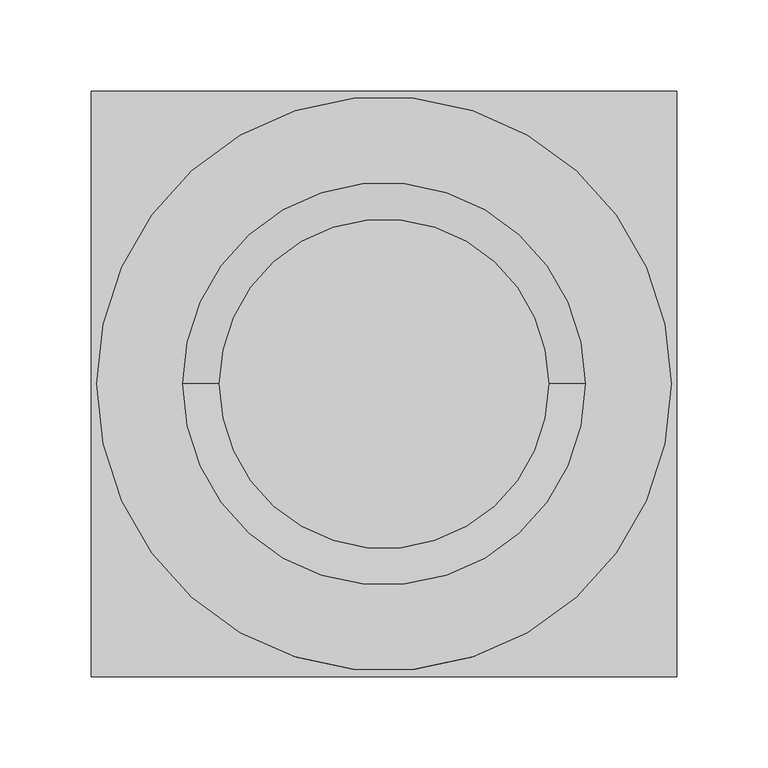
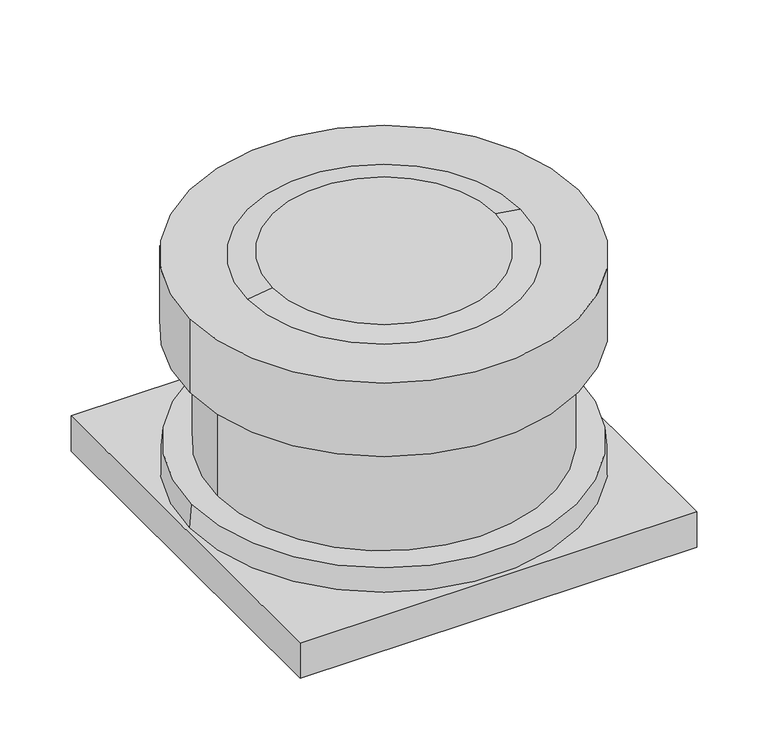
"""IFC4 building model written with IfcOpenShell, lengths in millimetres: unitary equipment geometry, VE-Wentylator-ParaForma-Harmann-MONSTER_EC-Zestaw_z_Podstawą-Wywiewny : 190/800EC."""

from ifc_helpers import new_model, si_unit, point, frame, frame_2d, origin, origin_2d, place, context, project, spatial, polyline, circle_curve, trimmed, segment, composite_curve, outline, extrude, faceted_brep, source, transform, mapped, element, save
from ifc_brep_helpers import plane_surface, cylinder_surface, revolved_surface, advanced_brep


def unitary_equipment_4672604a(model_context):
    return source(origin(), model_context, "Body", "SolidModel", [
        faceted_brep([(156.0, 156.0, 294.0), (156.0, 156.0, 320.0), (-156.0, 156.0, 320.0), (-156.0, 156.0, 294.0), (160.0, 160.0, 324.0), (160.0, 160.0, 294.0), (-160.0, 160.0, 294.0), (-160.0, 160.0, 324.0), (-156.0, -156.0, 320.0), (-156.0, -156.0, 294.0), (-160.0, -160.0, 294.0), (-160.0, -160.0, 324.0), (156.0, -156.0, 320.0), (156.0, -156.0, 294.0), (160.0, -160.0, 294.0), (160.0, -160.0, 324.0)], [[[0, 1, 2, 3]], [[4, 5, 6, 7]], [[3, 2, 8, 9]], [[7, 6, 10, 11]], [[9, 8, 12, 13]], [[11, 10, 14, 15]], [[7, 11, 15, 4]], [[1, 12, 8, 2]], [[13, 12, 1, 0]], [[5, 14, 10, 6], [3, 9, 13, 0]], [[15, 14, 5, 4]]]),
        advanced_brep(
        [(-157.0, 0.0, 440.0), (157.0, 0.0, 440.0), (-157.0, 0.0, 503.0), (157.0, 0.0, 503.0), (110.0, 0.0, 503.0), (-110.0, 0.0, 503.0), (-90.0, 0.0, 506.0), (90.0, 0.0, 506.0)],
        [
            (0, 1, circle_curve(frame((0.0, 0.0, 440.0), z_axis=(0.0, 0.0, -1.0), x_axis=(1.0, 0.0, 0.0)), 157.0)),
            (1, 0, circle_curve(frame((0.0, 0.0, 440.0), z_axis=(0.0, 0.0, -1.0), x_axis=(1.0, 0.0, 0.0)), 157.0)),
            (2, 3, circle_curve(frame((0.0, 0.0, 503.0), z_axis=(0.0, 0.0, 1.0), x_axis=(1.0, 0.0, 0.0)), 157.0)),
            (3, 2, circle_curve(frame((0.0, 0.0, 503.0), z_axis=(0.0, 0.0, 1.0), x_axis=(1.0, 0.0, 0.0)), 157.0)),
            (4, 5, circle_curve(frame((0.0, 0.0, 503.0), z_axis=(0.0, 0.0, -1.0), x_axis=(-1.0, 0.0, 0.0)), 110.0)),
            (5, 4, circle_curve(frame((0.0, 0.0, 503.0), z_axis=(0.0, 0.0, -1.0), x_axis=(1.0, 0.0, 0.0)), 110.0)),
            (0, 2),
            (3, 1),
            (6, 7, circle_curve(frame((0.0, 0.0, 506.0), z_axis=(0.0, 0.0, 1.0), x_axis=(-1.0, 0.0, 0.0)), 90.0)),
            (7, 6, circle_curve(frame((0.0, 0.0, 506.0), z_axis=(0.0, 0.0, 1.0), x_axis=(1.0, 0.0, 0.0)), 90.0)),
            (6, 5),
            (4, 7),
        ],
        [
            plane_surface(frame((0.0, 0.0, 440.0), z_axis=(0.0, 0.0, -1.0), x_axis=(0.0, 1.0, 0.0))),
            plane_surface(frame((0.0, 0.0, 503.0), z_axis=(0.0, 0.0, 1.0), x_axis=(0.0, 1.0, 0.0))),
            cylinder_surface(frame((0.0, 0.0, 440.0), z_axis=(0.0, 0.0, -1.0), x_axis=(1.0, 0.0, 0.0)), 157.0),
            plane_surface(frame((0.0, 0.0, 506.0), z_axis=(0.0, 0.0, 1.0), x_axis=(0.0, -1.0, 0.0))),
            revolved_surface(polyline([(-90.0, 0.0, 506.0), (-110.0, 0.0, 503.0)]), (0.0, 0.0, 519.5), (0.0, 0.0, -1.0)),
            revolved_surface(polyline([(90.0, 0.0, 506.0), (110.0, 0.0, 503.0)]), (0.0, 0.0, 519.5), (0.0, 0.0, -1.0)),
        ],
        [
            (0, [[1, 2]]),
            (1, [[3, 4], [5, 6]]),
            (2, [[-1, 7, -4, 8]]),
            (2, [[-2, -8, -3, -7]]),
            (3, [[9, 10]]),
            (4, [[-9, 11, -5, 12]]),
            (5, [[-10, -12, -6, -11]]),
        ],
    ),
        extrude(outline(composite_curve([segment(trimmed(circle_curve(frame_2d((142.5, 10.9)), 8.0), [point((134.5, 10.9))], [point((150.5, 10.9))], False, "CARTESIAN"), True, "CONTINUOUS"), segment(trimmed(circle_curve(frame_2d((142.5, 10.9)), 8.0), [point((150.5, 10.9))], [point((134.5, 10.9))], False, "CARTESIAN"), True, "CONTINUOUS")], self_intersect=False)), frame((0.0, 0.0, 351.0), z_axis=(0.0, 0.0, 1.0), x_axis=(1.0, 0.0, 0.0)), (0.0, 0.0, 1.0), 85.0),
        extrude(outline(composite_curve([segment(trimmed(circle_curve(frame_2d((142.5, -10.9)), 8.0), [point((134.5, -10.9))], [point((150.5, -10.9))], False, "CARTESIAN"), True, "CONTINUOUS"), segment(trimmed(circle_curve(frame_2d((142.5, -10.9)), 8.0), [point((150.5, -10.9))], [point((134.5, -10.9))], False, "CARTESIAN"), True, "CONTINUOUS")], self_intersect=False)), frame((0.0, 0.0, 351.0), z_axis=(0.0, 0.0, 1.0), x_axis=(1.0, 0.0, 0.0)), (0.0, 0.0, 1.0), 85.0),
        extrude(outline(composite_curve([segment(trimmed(circle_curve(origin_2d(), 134.5), [point((-134.5, 0.0))], [point((134.5, 0.0))], False, "CARTESIAN"), True, "CONTINUOUS"), segment(trimmed(circle_curve(origin_2d(), 134.5), [point((134.5, 0.0))], [point((-134.5, 0.0))], False, "CARTESIAN"), True, "CONTINUOUS")], self_intersect=False)), frame((0.0, 0.0, 344.0), z_axis=(0.0, 0.0, 1.0), x_axis=(1.0, 0.0, 0.0)), (0.0, 0.0, 1.0), 96.0),
        advanced_brep(
        [(-155.25, 0.0, 344.0), (155.25, 0.0, 344.0), (-157.0, 0.0, 324.0), (157.0, 0.0, 324.0)],
        [
            (0, 1, circle_curve(frame((0.0, 0.0, 344.0), z_axis=(0.0, 0.0, 1.0), x_axis=(-1.0, 0.0, 0.0)), 155.25)),
            (1, 0, circle_curve(frame((0.0, 0.0, 344.0), z_axis=(0.0, 0.0, 1.0), x_axis=(1.0, 0.0, 0.0)), 155.25)),
            (2, 3, circle_curve(frame((0.0, 0.0, 324.0), z_axis=(0.0, 0.0, -1.0), x_axis=(1.0, 0.0, 0.0)), 157.0)),
            (3, 2, circle_curve(frame((0.0, 0.0, 324.0), z_axis=(0.0, 0.0, -1.0), x_axis=(-1.0, 0.0, 0.0)), 157.0)),
            (3, 1),
            (0, 2),
        ],
        [
            plane_surface(frame((0.0, 0.0, 344.0), z_axis=(0.0, 0.0, 1.0), x_axis=(0.0, -1.0, 0.0))),
            plane_surface(frame((0.0, 0.0, 324.0), z_axis=(0.0, 0.0, -1.0), x_axis=(0.0, -1.0, 0.0))),
            revolved_surface(polyline([(-155.25000000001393, 0.0, 344.0), (-157.0, 0.0, 324.0)]), (0.0, 0.0, 2118.2857143), (0.0, 0.0, -1.0)),
            revolved_surface(polyline([(155.25000000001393, 0.0, 344.0), (157.0, 0.0, 324.0)]), (0.0, 0.0, 2118.2857143), (0.0, 0.0, -1.0)),
        ],
        [
            (0, [[1, 2]]),
            (1, [[3, 4]]),
            (2, [[-4, 5, -1, 6]]),
            (3, [[-3, -6, -2, -5]]),
        ],
    ),
    ])


if __name__ == "__main__":
    model = new_model("IFC4")
    model_context = context("Model", 3, world=origin())
    ifc_project = project(units=[si_unit("LENGTHUNIT", "METRE", prefix="MILLI")], contexts=[model_context])
    site = spatial("IfcSite", under=ifc_project)
    building = spatial("IfcBuilding", under=site)
    placement = place(None, origin())
    unitary_equipment_shape = unitary_equipment_4672604a(model_context)
    element("IfcUnitaryEquipment", 1, ObjectType="VE-Wentylator-ParaForma-Harmann-MONSTER_EC-Zestaw_z_Podstawą-Wywiewny : 190/800EC", at=placement, inside=building, context=model_context, shape_type="MappedRepresentation", body=[
        mapped(unitary_equipment_shape, transform((0.0, 0.0, 0.0), x_axis=(1.0, 0.0, 0.0), y_axis=(0.0, 1.0, 0.0), z_axis=(0.0, 0.0, 1.0))),
    ])
    save(model, "model.ifc")
